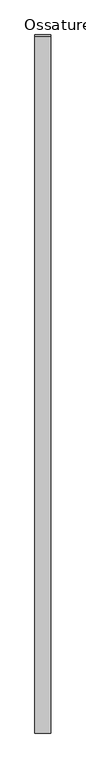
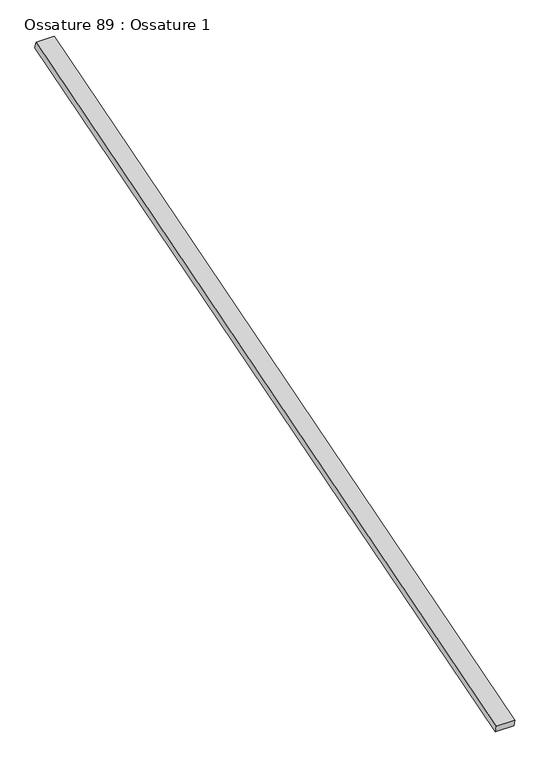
"""IFC4 building model written with IfcOpenShell, lengths in millimetres: beam geometry, Ossature 89 : Ossature 1."""

from ifc_helpers import new_model, si_unit, frame, origin, place, context, project, spatial, polyline, outline, extrude, source, transform, mapped, element, save


def ossature_89_ossature_1_b4f232e3(model_context):
    return source(origin(), model_context, "Body", "SweptSolid", [
        extrude(outline(polyline([(0.0, 0.0), (0.0, -4543.0299679), (-100.0, -4543.0299679), (-100.0, 0.0), (0.0, 0.0)])), frame((21479.8466393, -833.3913565, 8153.6336115), z_axis=(0.0, -0.28734788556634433, 0.9578262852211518), x_axis=(-1.0, 0.0, 0.0)), (0.0, 0.0, 1.0), 40.0),
    ])


if __name__ == "__main__":
    model = new_model("IFC4")
    model_context = context("Model", 3, world=origin())
    ifc_project = project(units=[si_unit("LENGTHUNIT", "METRE", prefix="MILLI")], contexts=[model_context])
    site = spatial("IfcSite", under=ifc_project)
    building = spatial("IfcBuilding", under=site)
    placement = place(None, origin())
    ossature_89_ossature_1_shape = ossature_89_ossature_1_b4f232e3(model_context)
    element("IfcBeam", 1, ObjectType="Ossature 89 : Ossature 1", at=placement, inside=building, context=model_context, shape_type="MappedRepresentation", body=[
        mapped(ossature_89_ossature_1_shape, transform((0.0, 0.0, 0.0), x_axis=(1.0, 0.0, 0.0), y_axis=(0.0, 1.0, 0.0), z_axis=(0.0, 0.0, 1.0))),
    ])
    save(model, "model.ifc")
